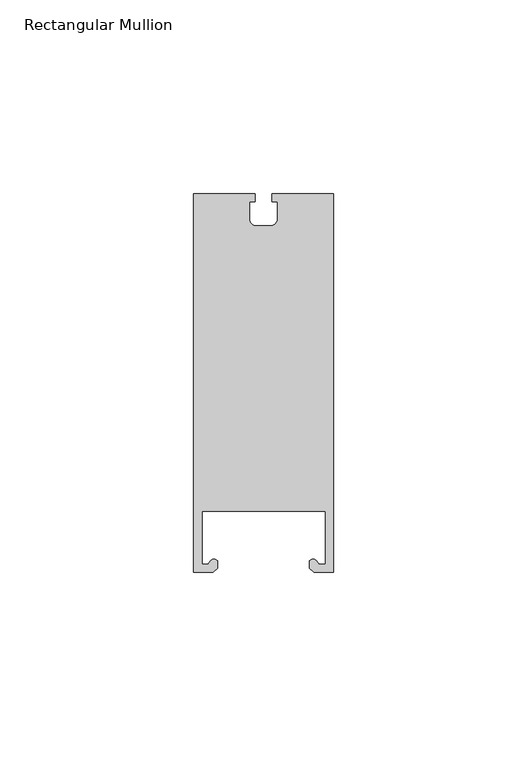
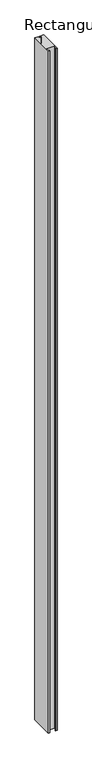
"""IFC4 building model written with IfcOpenShell, lengths in millimetres: member geometry, Rectangular Mullion : NLRS_21_CWM_drager LD.0995 - rechts_Storax."""

from ifc_helpers import new_model, si_unit, point, frame, frame_2d, origin, place, context, project, spatial, polyline, circle_curve, trimmed, segment, composite_curve, outline, extrude, source, transform, mapped, element, save


def rectangular_mullion_7b49c8f1(model_context):
    return source(origin(), model_context, "Body", "SweptSolid", [
        extrude(outline(composite_curve([segment(polyline([(-86.0, -98.5), (-86.0, -1.0), (-70.2489445, -1.0), (-70.2489445, -3.0843142), (-71.59041, -3.0843142), (-71.59041, -7.4667227)]), True, "CONTINUOUS"), segment(trimmed(circle_curve(frame_2d((-69.8285608, -7.4667227)), 1.7618492), [point((-71.59041, -7.4667227))], [point((-69.559877, -9.2079641))], True, "CARTESIAN"), True, "CONTINUOUS"), segment(polyline([(-69.559877, -9.2079641), (-65.9027553, -9.2079641)]), True, "CONTINUOUS"), segment(trimmed(circle_curve(frame_2d((-66.1714392, -7.4667227)), 1.7618492), [point((-65.9027553, -9.2079641))], [point((-64.40959, -7.4667227))], True, "CARTESIAN"), True, "CONTINUOUS"), segment(polyline([(-64.40959, -7.4667227), (-64.40959, -3.0843142), (-65.7510555, -3.0843142), (-65.7510555, -1.0), (-50.0, -1.0), (-50.0, -98.5), (-55.0, -98.5), (-56.1000941, -97.5769114), (-56.1000941, -95.561549)]), True, "CONTINUOUS"), segment(trimmed(circle_curve(frame_2d((-55.2049928, -96.3498072)), 1.1927101), [point((-56.1000941, -95.561549))], [point((-54.3098916, -95.561549))], False, "CARTESIAN"), True, "CONTINUOUS"), segment(polyline([(-54.3098916, -95.561549), (-53.6747557, -96.4686169), (-52.0, -96.4686169), (-52.0, -82.8621189), (-83.8636449, -82.8621189), (-83.8636449, -96.4686169), (-82.3252443, -96.4686169), (-81.6901084, -95.561549)]), True, "CONTINUOUS"), segment(trimmed(circle_curve(frame_2d((-80.7950072, -96.3498072)), 1.1927101), [point((-81.6901084, -95.561549))], [point((-79.8999059, -95.561549))], False, "CARTESIAN"), True, "CONTINUOUS"), segment(polyline([(-79.8999059, -95.561549), (-79.8999059, -97.5769114), (-81.0, -98.5), (-86.0, -98.5)]), True, "CONTINUOUS")], self_intersect=False)), frame((0.0, 0.0, -3000.0), z_axis=(0.0, 0.0, 1.0), x_axis=(1.0, 0.0, 0.0)), (0.0, 0.0, 1.0), 3000.0),
    ])


if __name__ == "__main__":
    model = new_model("IFC4")
    model_context = context("Model", 3, world=origin())
    ifc_project = project(units=[si_unit("LENGTHUNIT", "METRE", prefix="MILLI")], contexts=[model_context])
    site = spatial("IfcSite", under=ifc_project)
    building = spatial("IfcBuilding", under=site)
    placement = place(None, origin())
    rectangular_mullion_shape = rectangular_mullion_7b49c8f1(model_context)
    element("IfcMember", 1, ObjectType="Rectangular Mullion : NLRS_21_CWM_drager LD.0995 - rechts_Storax", at=placement, inside=building, context=model_context, shape_type="MappedRepresentation", body=[
        mapped(rectangular_mullion_shape, transform((0.0, 0.0, 0.0), x_axis=(1.0, 0.0, 0.0), y_axis=(0.0, 1.0, 0.0), z_axis=(0.0, 0.0, 1.0))),
    ])
    save(model, "model.ifc")
